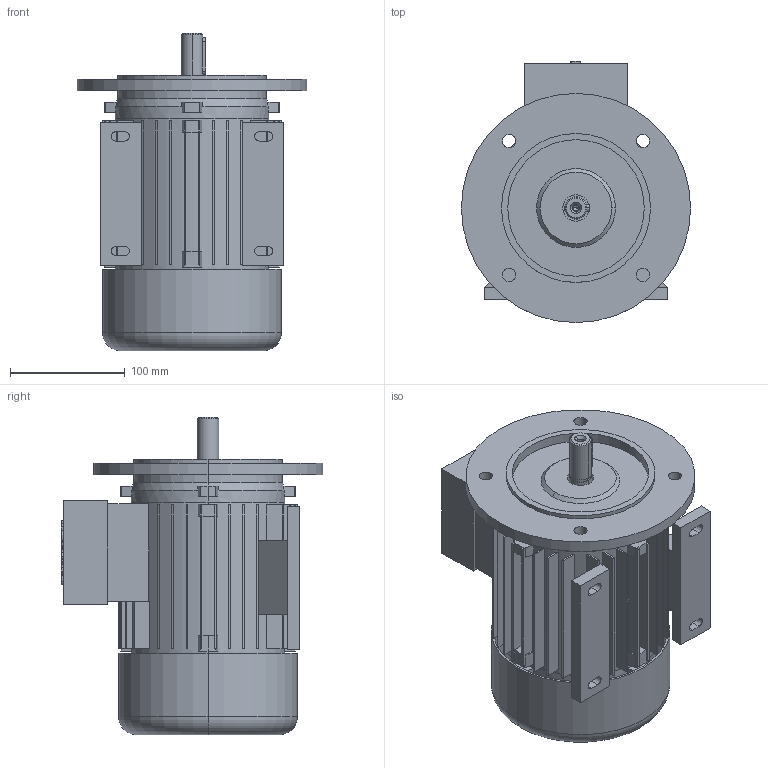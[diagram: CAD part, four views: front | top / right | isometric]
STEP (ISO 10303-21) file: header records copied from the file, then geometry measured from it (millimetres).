
FILE_DESCRIPTION (( 'STEP AP214' ), '1' );
FILE_NAME ('20.18270-E 5AZ 80 B35 STANDK.STEP', '2018-07-10T08:09:36', ( '' ), ( '' ), 'SwSTEP 2.0', 'SolidWorks 2018', '' );
FILE_SCHEMA (( 'AUTOMOTIVE_DESIGN' ));
Length unit declared in the file: millimetre
Products named in the file (1): 20.18270-E 5AZ 80 B35 STANDK
Bounding box: 200 x 228 x 277 mm (x, y, z)
Volume: 1766683.2 mm3; surface area: 542414.2 mm2
Topology: 7 solids, 7 shells, 535 faces, 1366 edges, 899 vertices
Faces by surface type: plane 338, cylinder 158, cone 26, bspline 9, torus 4
Entity records: 16491 total; most frequent: CARTESIAN_POINT 3027, DIRECTION 2848, ORIENTED_EDGE 2728, EDGE_CURVE 1364, AXIS2_PLACEMENT_3D 994, VERTEX_POINT 899, VECTOR 860, LINE 860
